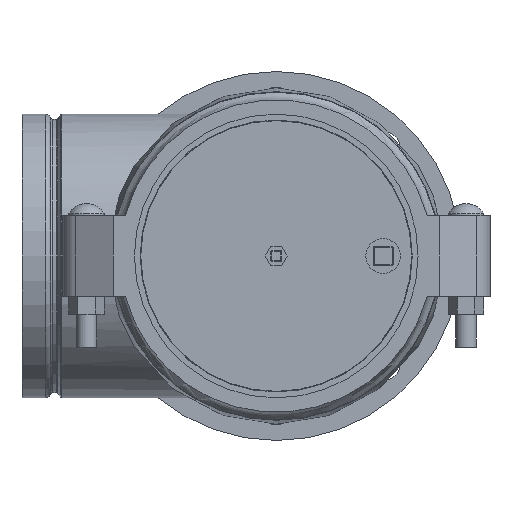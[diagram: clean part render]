
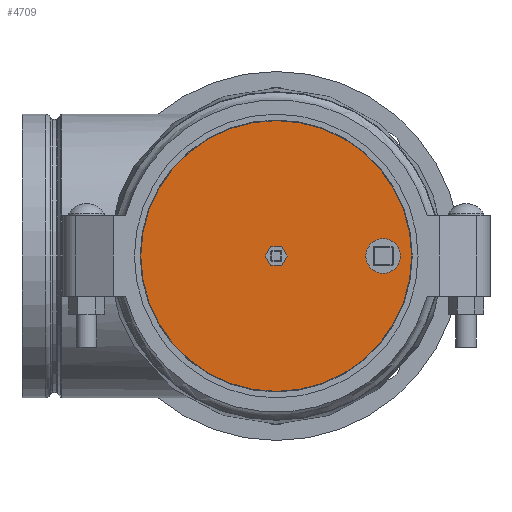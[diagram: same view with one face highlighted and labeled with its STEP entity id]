
A CAD part, left-side view. The second image highlights one B-rep face of the part: STEP entity #4709.
In plain terms, the highlighted planar face has unit normal (-1, 0, 0).
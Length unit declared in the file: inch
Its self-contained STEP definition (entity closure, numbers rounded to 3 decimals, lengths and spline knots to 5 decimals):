
#134=FACE_BOUND('',#1598,.T.);
#135=FACE_BOUND('',#1599,.T.);
#190=PLANE('',#5288);
#527=CIRCLE('',#5287,0.525);
#528=CIRCLE('',#5289,4.11784);
#529=CIRCLE('',#5290,4.11784);
#790=LINE('',#7956,#1009);
#793=LINE('',#7961,#1012);
#795=LINE('',#7965,#1014);
#797=LINE('',#7969,#1016);
#799=LINE('',#7973,#1018);
#801=LINE('',#7976,#1020);
#1009=VECTOR('',#6353,0.3937);
#1012=VECTOR('',#6358,0.3937);
#1014=VECTOR('',#6362,0.3937);
#1016=VECTOR('',#6366,0.3937);
#1018=VECTOR('',#6370,0.3937);
#1020=VECTOR('',#6374,0.3937);
#1346=FACE_OUTER_BOUND('',#1597,.T.);
#1597=EDGE_LOOP('',(#3578,#3579));
#1598=EDGE_LOOP('',(#3580,#3581,#3582,#3583,#3584,#3585));
#1599=EDGE_LOOP('',(#3586));
#1976=VERTEX_POINT('',#7954);
#1977=VERTEX_POINT('',#7955);
#1978=VERTEX_POINT('',#7960);
#1979=VERTEX_POINT('',#7964);
#1980=VERTEX_POINT('',#7968);
#1981=VERTEX_POINT('',#7972);
#1982=VERTEX_POINT('',#7978);
#1983=VERTEX_POINT('',#7982);
#1984=VERTEX_POINT('',#7983);
#2554=EDGE_CURVE('',#1976,#1977,#790,.T.);
#2557=EDGE_CURVE('',#1977,#1978,#793,.T.);
#2559=EDGE_CURVE('',#1978,#1979,#795,.T.);
#2561=EDGE_CURVE('',#1979,#1980,#797,.T.);
#2563=EDGE_CURVE('',#1980,#1981,#799,.T.);
#2565=EDGE_CURVE('',#1981,#1976,#801,.T.);
#2567=EDGE_CURVE('',#1982,#1982,#527,.T.);
#2568=EDGE_CURVE('',#1983,#1984,#528,.T.);
#2569=EDGE_CURVE('',#1984,#1983,#529,.T.);
#3578=ORIENTED_EDGE('',*,*,#2568,.F.);
#3579=ORIENTED_EDGE('',*,*,#2569,.F.);
#3580=ORIENTED_EDGE('',*,*,#2554,.T.);
#3581=ORIENTED_EDGE('',*,*,#2557,.T.);
#3582=ORIENTED_EDGE('',*,*,#2559,.T.);
#3583=ORIENTED_EDGE('',*,*,#2561,.T.);
#3584=ORIENTED_EDGE('',*,*,#2563,.T.);
#3585=ORIENTED_EDGE('',*,*,#2565,.T.);
#3586=ORIENTED_EDGE('',*,*,#2567,.T.);
#4709=ADVANCED_FACE('',(#1346,#134,#135),#190,.T.);
#5287=AXIS2_PLACEMENT_3D('',#7980,#6378,#6379);
#5288=AXIS2_PLACEMENT_3D('',#7981,#6380,#6381);
#5289=AXIS2_PLACEMENT_3D('',#7984,#6382,#6383);
#5290=AXIS2_PLACEMENT_3D('',#7985,#6384,#6385);
#6353=DIRECTION('',(0.,-1.,0.));
#6358=DIRECTION('',(0.,-0.5,-0.866));
#6362=DIRECTION('',(0.,0.5,-0.866));
#6366=DIRECTION('',(0.,1.,0.));
#6370=DIRECTION('',(0.,0.5,0.866));
#6374=DIRECTION('',(0.,-0.5,0.866));
#6378=DIRECTION('center_axis',(1.,0.,0.));
#6379=DIRECTION('ref_axis',(0.,0.,-1.));
#6380=DIRECTION('center_axis',(-1.,0.,0.));
#6381=DIRECTION('ref_axis',(0.,0.,1.));
#6382=DIRECTION('center_axis',(1.,0.,0.));
#6383=DIRECTION('ref_axis',(0.,0.,-1.));
#6384=DIRECTION('center_axis',(1.,0.,0.));
#6385=DIRECTION('ref_axis',(0.,0.,-1.));
#7954=CARTESIAN_POINT('',(-0.41,0.16599,0.2875));
#7955=CARTESIAN_POINT('',(-0.41,-0.16599,0.2875));
#7956=CARTESIAN_POINT('',(-0.41,1.97593,0.2875));
#7960=CARTESIAN_POINT('',(-0.41,-0.33198,0.));
#7961=CARTESIAN_POINT('',(-0.41,0.22425,0.96341));
#7964=CARTESIAN_POINT('',(-0.41,-0.16599,-0.2875));
#7965=CARTESIAN_POINT('',(-0.41,0.30725,-1.10716));
#7968=CARTESIAN_POINT('',(-0.41,0.16599,-0.2875));
#7969=CARTESIAN_POINT('',(-0.41,2.14192,-0.2875));
#7972=CARTESIAN_POINT('',(-0.41,0.33198,0.));
#7973=CARTESIAN_POINT('',(-0.41,0.80521,0.81966));
#7976=CARTESIAN_POINT('',(-0.41,0.72222,-0.67591));
#7978=CARTESIAN_POINT('',(-0.41,-3.25,0.525));
#7980=CARTESIAN_POINT('Origin',(-0.41,-3.25,0.));
#7981=CARTESIAN_POINT('Origin',(-0.41,4.11784,0.));
#7982=CARTESIAN_POINT('',(-0.41,4.11784,0.));
#7983=CARTESIAN_POINT('',(-0.41,-4.11784,0.));
#7984=CARTESIAN_POINT('Origin',(-0.41,0.,0.));
#7985=CARTESIAN_POINT('Origin',(-0.41,0.,0.));
